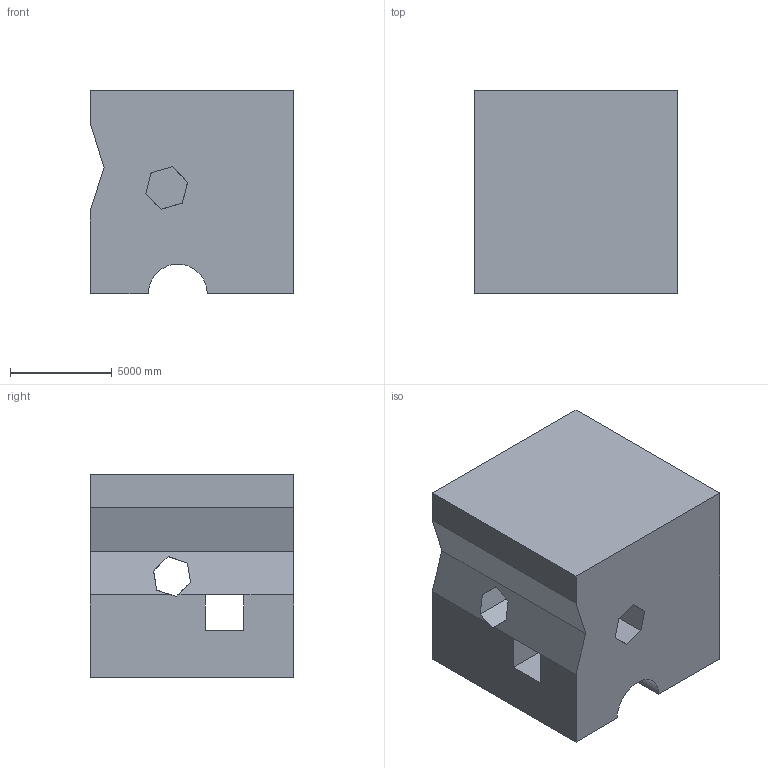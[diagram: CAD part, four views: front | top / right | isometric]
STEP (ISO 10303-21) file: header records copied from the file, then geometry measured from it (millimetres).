
FILE_DESCRIPTION (( 'STEP AP203' ), '1' );
FILE_NAME ('1530.STEP', '2022-08-18T15:05:50', ( 'user' ), ( '' ), 'SwSTEP 2.0', 'SolidWorks 2021', '' );
FILE_SCHEMA (( 'CONFIG_CONTROL_DESIGN' ));
Length unit declared in the file: centimetre
Products named in the file (1): 1530
Bounding box: 10000 x 10000 x 10000 mm (x, y, z)
Volume: 860949157999.2 mm3; surface area: 808610080.7 mm2
Topology: 1 solids, 1 shells, 43 faces, 133 edges, 88 vertices
Faces by surface type: plane 41, cylinder 2
Entity records: 1548 total; most frequent: ORIENTED_EDGE 266, CARTESIAN_POINT 265, DIRECTION 225, EDGE_CURVE 133, VECTOR 129, LINE 129, VERTEX_POINT 88, AXIS2_PLACEMENT_3D 48
